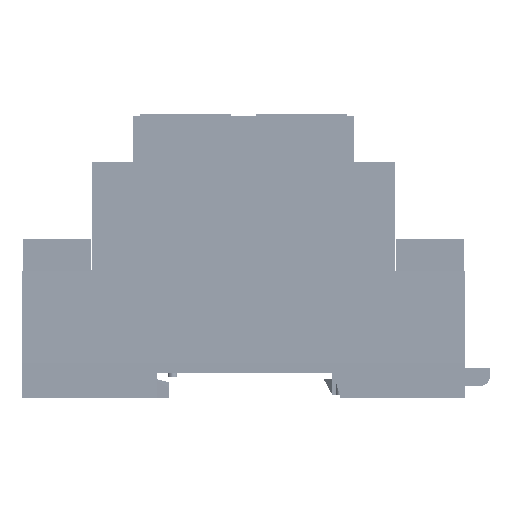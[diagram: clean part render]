
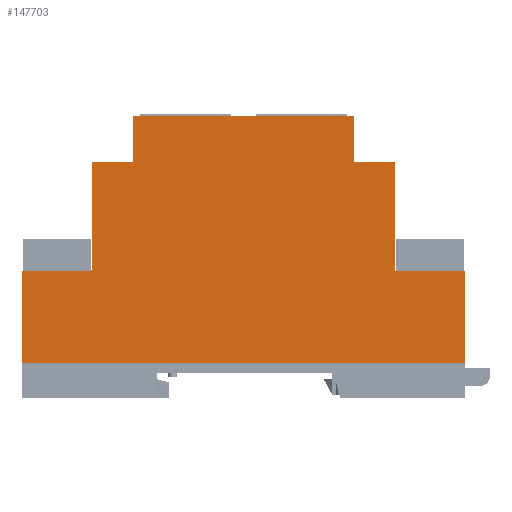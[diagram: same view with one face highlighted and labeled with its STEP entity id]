
A CAD part, left-side view. The second image highlights one B-rep face of the part: STEP entity #147703.
In plain terms, the highlighted planar face has unit normal (-1, 0, 0.009) as drawn and (0, 0.009, 1) by its records, which use the part's own axes.
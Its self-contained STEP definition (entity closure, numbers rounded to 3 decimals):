
#145305 = EDGE_CURVE('',#145306,#145308,#145310,.T.);
#145306 = VERTEX_POINT('',#145307);
#145307 = CARTESIAN_POINT('',(-38.85,6.,41.8));
#145308 = VERTEX_POINT('',#145309);
#145309 = CARTESIAN_POINT('',(-33.15,6.,41.8));
#145310 = LINE('',#145311,#145312);
#145311 = CARTESIAN_POINT('',(-38.85,6.,41.8));
#145312 = VECTOR('',#145313,1.);
#145313 = DIRECTION('',(1.,0.,0.));
#145888 = VERTEX_POINT('',#145889);
#145889 = CARTESIAN_POINT('',(33.15,6.,41.8));
#145895 = EDGE_CURVE('',#145308,#145888,#145896,.T.);
#145896 = LINE('',#145897,#145898);
#145897 = CARTESIAN_POINT('',(-33.15,6.,41.8));
#145898 = VECTOR('',#145899,1.);
#145899 = DIRECTION('',(1.,0.,0.));
#146006 = VERTEX_POINT('',#146007);
#146007 = CARTESIAN_POINT('',(38.85,6.,41.8));
#146076 = VERTEX_POINT('',#146077);
#146077 = CARTESIAN_POINT('',(45.35,6.,41.8));
#146083 = EDGE_CURVE('',#146006,#146076,#146084,.T.);
#146084 = LINE('',#146085,#146086);
#146085 = CARTESIAN_POINT('',(38.85,6.,41.8));
#146086 = VECTOR('',#146087,1.);
#146087 = DIRECTION('',(1.,0.,0.));
#146130 = VERTEX_POINT('',#146131);
#146131 = CARTESIAN_POINT('',(45.35,25.,41.631));
#146137 = EDGE_CURVE('',#146130,#146076,#146138,.T.);
#146138 = LINE('',#146139,#146140);
#146139 = CARTESIAN_POINT('',(45.35,25.,41.631));
#146140 = VECTOR('',#146141,1.);
#146141 = DIRECTION('',(0.,-1.,0.009));
#146152 = VERTEX_POINT('',#146153);
#146153 = CARTESIAN_POINT('',(31.,25.,41.631));
#146161 = EDGE_CURVE('',#146152,#146130,#146162,.T.);
#146162 = LINE('',#146163,#146164);
#146163 = CARTESIAN_POINT('',(31.,25.,41.631));
#146164 = VECTOR('',#146165,1.);
#146165 = DIRECTION('',(1.,0.,0.));
#146208 = VERTEX_POINT('',#146209);
#146209 = CARTESIAN_POINT('',(31.,47.2,41.434));
#146215 = EDGE_CURVE('',#146208,#146152,#146216,.T.);
#146216 = LINE('',#146217,#146218);
#146217 = CARTESIAN_POINT('',(31.,47.2,41.434));
#146218 = VECTOR('',#146219,1.);
#146219 = DIRECTION('',(0.,-1.,0.009));
#146262 = VERTEX_POINT('',#146263);
#146263 = CARTESIAN_POINT('',(22.6,47.2,41.434));
#146269 = EDGE_CURVE('',#146262,#146208,#146270,.T.);
#146270 = LINE('',#146271,#146272);
#146271 = CARTESIAN_POINT('',(22.6,47.2,41.434));
#146272 = VECTOR('',#146273,1.);
#146273 = DIRECTION('',(1.,0.,0.));
#146293 = VERTEX_POINT('',#146294);
#146294 = CARTESIAN_POINT('',(22.6,56.7,41.35));
#146300 = EDGE_CURVE('',#146293,#146262,#146301,.T.);
#146301 = LINE('',#146302,#146303);
#146302 = CARTESIAN_POINT('',(22.6,56.7,41.35));
#146303 = VECTOR('',#146304,1.);
#146304 = DIRECTION('',(0.,-1.,0.009));
#146324 = VERTEX_POINT('',#146325);
#146325 = CARTESIAN_POINT('',(-22.6,56.7,41.35));
#146331 = EDGE_CURVE('',#146324,#146293,#146332,.T.);
#146332 = LINE('',#146333,#146334);
#146333 = CARTESIAN_POINT('',(-22.6,56.7,41.35));
#146334 = VECTOR('',#146335,1.);
#146335 = DIRECTION('',(1.,0.,0.));
#146389 = VERTEX_POINT('',#146390);
#146390 = CARTESIAN_POINT('',(-22.6,47.2,41.434));
#146396 = EDGE_CURVE('',#146389,#146324,#146397,.T.);
#146397 = LINE('',#146398,#146399);
#146398 = CARTESIAN_POINT('',(-22.6,47.2,41.434));
#146399 = VECTOR('',#146400,1.);
#146400 = DIRECTION('',(0.,1.,-0.009));
#146420 = VERTEX_POINT('',#146421);
#146421 = CARTESIAN_POINT('',(-31.,47.2,41.434));
#146427 = EDGE_CURVE('',#146420,#146389,#146428,.T.);
#146428 = LINE('',#146429,#146430);
#146429 = CARTESIAN_POINT('',(-31.,47.2,41.434));
#146430 = VECTOR('',#146431,1.);
#146431 = DIRECTION('',(1.,0.,0.));
#146488 = VERTEX_POINT('',#146489);
#146489 = CARTESIAN_POINT('',(-31.,25.,41.631));
#146495 = EDGE_CURVE('',#146488,#146420,#146496,.T.);
#146496 = LINE('',#146497,#146498);
#146497 = CARTESIAN_POINT('',(-31.,25.,41.631));
#146498 = VECTOR('',#146499,1.);
#146499 = DIRECTION('',(0.,1.,-0.009));
#146510 = VERTEX_POINT('',#146511);
#146511 = CARTESIAN_POINT('',(-45.35,25.,41.631));
#146519 = EDGE_CURVE('',#146510,#146488,#146520,.T.);
#146520 = LINE('',#146521,#146522);
#146521 = CARTESIAN_POINT('',(-45.35,25.,41.631));
#146522 = VECTOR('',#146523,1.);
#146523 = DIRECTION('',(1.,0.,0.));
#146566 = VERTEX_POINT('',#146567);
#146567 = CARTESIAN_POINT('',(-45.35,6.,41.8));
#146573 = EDGE_CURVE('',#146566,#146510,#146574,.T.);
#146574 = LINE('',#146575,#146576);
#146575 = CARTESIAN_POINT('',(-45.35,6.,41.8));
#146576 = VECTOR('',#146577,1.);
#146577 = DIRECTION('',(0.,1.,-0.009));
#146634 = EDGE_CURVE('',#146566,#145306,#146635,.T.);
#146635 = LINE('',#146636,#146637);
#146636 = CARTESIAN_POINT('',(-45.35,6.,41.8));
#146637 = VECTOR('',#146638,1.);
#146638 = DIRECTION('',(1.,0.,0.));
#146850 = EDGE_CURVE('',#145888,#146006,#146851,.T.);
#146851 = LINE('',#146852,#146853);
#146852 = CARTESIAN_POINT('',(33.15,6.,41.8));
#146853 = VECTOR('',#146854,1.);
#146854 = DIRECTION('',(1.,0.,0.));
#147703 = ADVANCED_FACE('',(#147704),#147722,.F.);
#147704 = FACE_BOUND('',#147705,.T.);
#147705 = EDGE_LOOP('',(#147706,#147707,#147708,#147709,#147710,#147711,
    #147712,#147713,#147714,#147715,#147716,#147717,#147718,#147719,
    #147720,#147721));
#147706 = ORIENTED_EDGE('',*,*,#146161,.F.);
#147707 = ORIENTED_EDGE('',*,*,#146215,.F.);
#147708 = ORIENTED_EDGE('',*,*,#146269,.F.);
#147709 = ORIENTED_EDGE('',*,*,#146300,.F.);
#147710 = ORIENTED_EDGE('',*,*,#146331,.F.);
#147711 = ORIENTED_EDGE('',*,*,#146396,.F.);
#147712 = ORIENTED_EDGE('',*,*,#146427,.F.);
#147713 = ORIENTED_EDGE('',*,*,#146495,.F.);
#147714 = ORIENTED_EDGE('',*,*,#146519,.F.);
#147715 = ORIENTED_EDGE('',*,*,#146573,.F.);
#147716 = ORIENTED_EDGE('',*,*,#146634,.T.);
#147717 = ORIENTED_EDGE('',*,*,#145305,.T.);
#147718 = ORIENTED_EDGE('',*,*,#145895,.T.);
#147719 = ORIENTED_EDGE('',*,*,#146850,.T.);
#147720 = ORIENTED_EDGE('',*,*,#146083,.T.);
#147721 = ORIENTED_EDGE('',*,*,#146137,.F.);
#147722 = PLANE('',#147723);
#147723 = AXIS2_PLACEMENT_3D('',#147724,#147725,#147726);
#147724 = CARTESIAN_POINT('',(-46.,6.,41.8));
#147725 = DIRECTION('',(0.,-0.009,-1.));
#147726 = DIRECTION('',(0.,1.,-0.009));
